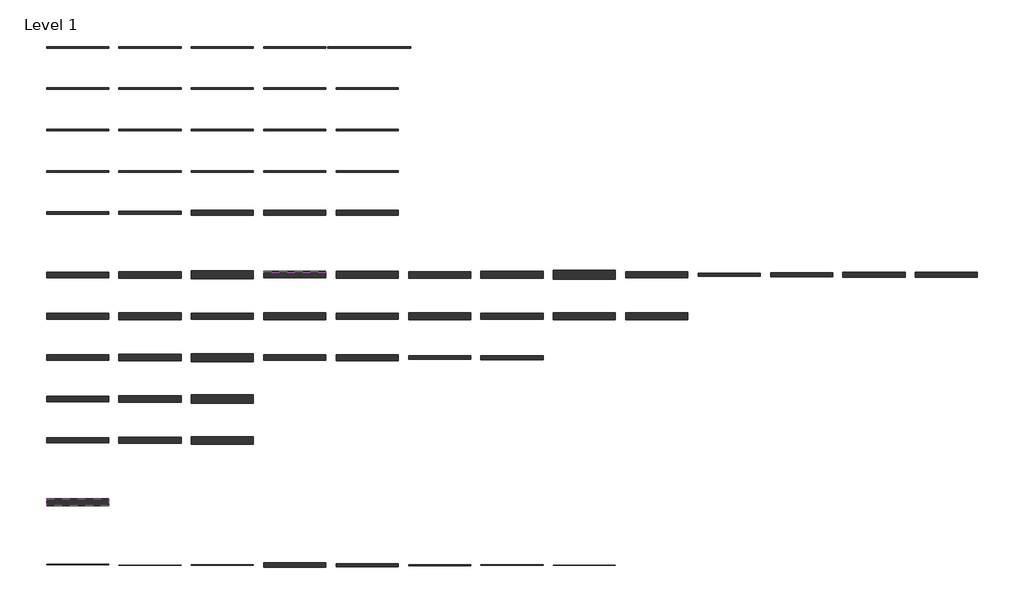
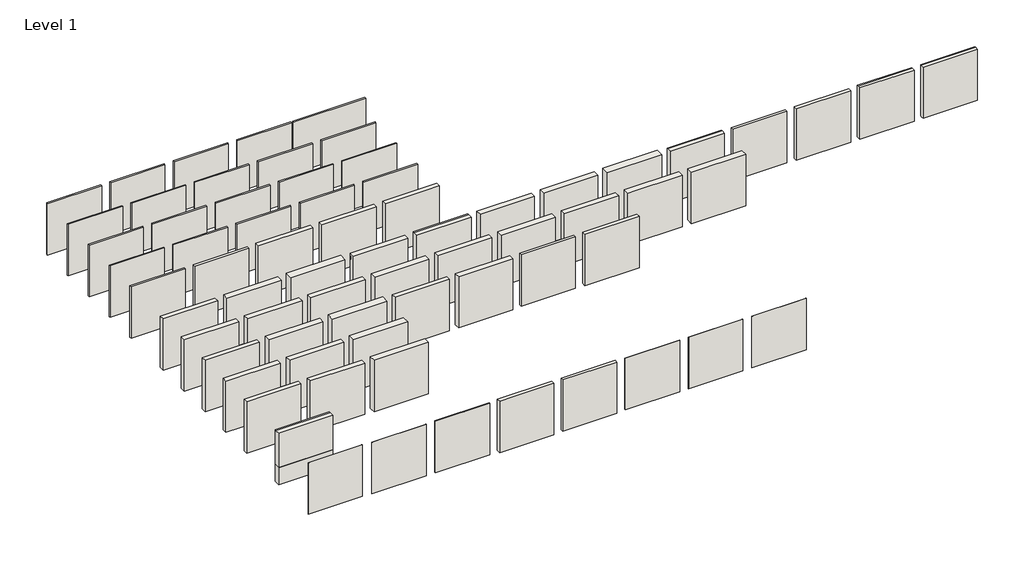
# One storey: 70 walls, 2 proxies.
"""IFC4 building model written with IfcOpenShell, lengths in millimetres."""

from ifc_helpers import new_model, si_unit, frame, origin, origin_with_axes, place, context, project, spatial, polyline, outline, extrude, faceted_brep, element, save

model = new_model("IFC4")

# Units and contexts
model_context = context("Model", 3, world=origin())
ifc_project = project(units=[si_unit("LENGTHUNIT", "METRE", prefix="MILLI")], contexts=[model_context])

# Site, building, storey
site = spatial("IfcSite", under=ifc_project)
building = spatial("IfcBuilding", under=site)
storey = spatial("IfcBuildingStorey", under=building, Name="Level 1", Elevation=0.0)

# Proxies
placement = place(None, origin())
element("IfcBuildingElementProxy", 1, Name="Wall Sweeps", at=placement, inside=storey, context=model_context, shape_type="Brep", body=[
    faceted_brep([(19074.129287, -5451.8691339, 1085.85), (19074.129287, -5451.8691339, 1016.0), (19074.129287, -5359.7941339, 1016.0), (19074.129287, -5324.8691339, 1016.0), (19074.129287, -5324.8691339, 1041.4), (19074.129287, -5359.7941339, 1085.85), (15416.529287, -5451.8691339, 1085.85), (15416.529287, -5359.7941339, 1085.85), (15416.529287, -5324.8691339, 1041.4), (15416.529287, -5324.8691339, 1016.0), (15416.529287, -5359.7941339, 1016.0), (15416.529287, -5451.8691339, 1016.0)], [[[0, 1, 2, 3, 4, 5]], [[6, 7, 8, 9, 10, 11]], [[1, 0, 6, 11]], [[3, 2, 1, 11, 10, 9]], [[4, 3, 9, 8]], [[5, 4, 8, 7]], [[0, 5, 7, 6]]]),
])
element("IfcBuildingElementProxy", 2, Name="Wall Sweeps", at=placement, inside=storey, context=model_context, shape_type="SweptSolid", body=[
    extrude(outline(polyline([(19074.129287, -5318.5191339), (19074.129287, -5410.5941339), (15416.529287, -5410.5941339), (15416.529287, -5318.5191339), (19074.129287, -5318.5191339)])), frame((0.0, 0.0, 3257.55), z_axis=(0.0, 0.0, 1.0), x_axis=(1.0, 0.0, 0.0)), (0.0, 0.0, 1.0), 190.5),
])

# Walls
element("IfcWall", 3, ObjectType="Brick-King-Flemish", at=placement, inside=storey, context=model_context, shape_type="SweptSolid", body=[
    extrude(outline(polyline([(6882.129287, 7919.6433661), (10539.729287, 7919.6433661), (10539.729287, 7827.5683661), (6882.129287, 7827.5683661), (6882.129287, 7919.6433661)])), origin_with_axes(), (0.0, 0.0, 1.0), 3657.6),
])
element("IfcWall", 4, ObjectType="Brick-Modular-Flemish", at=placement, inside=storey, context=model_context, shape_type="SweptSolid", body=[
    extrude(outline(polyline([(6882.129287, 5481.2433661), (10539.729287, 5481.2433661), (10539.729287, 5389.1683661), (6882.129287, 5389.1683661), (6882.129287, 5481.2433661)])), origin_with_axes(), (0.0, 0.0, 1.0), 3657.6),
])
element("IfcWall", 5, ObjectType="Brick-Norman-Third", at=placement, inside=storey, context=model_context, shape_type="SweptSolid", body=[
    extrude(outline(polyline([(19683.729287, 3042.8433661), (23341.329287, 3042.8433661), (23341.329287, 2950.7683661), (19683.729287, 2950.7683661), (19683.729287, 3042.8433661)])), origin_with_axes(), (0.0, 0.0, 1.0), 3657.6),
])
element("IfcWall", 6, ObjectType="Brick-Norman-Common", at=placement, inside=storey, context=model_context, shape_type="SweptSolid", body=[
    extrude(outline(polyline([(2614.929287, 3042.8433661), (6272.529287, 3042.8433661), (6272.529287, 2950.7683661), (2614.929287, 2950.7683661), (2614.929287, 3042.8433661)])), origin_with_axes(), (0.0, 0.0, 1.0), 3657.6),
])
element("IfcWall", 7, ObjectType="Brick-Norman-Flemish", at=placement, inside=storey, context=model_context, shape_type="SweptSolid", body=[
    extrude(outline(polyline([(6882.129287, 3042.8433661), (10539.729287, 3042.8433661), (10539.729287, 2950.7683661), (6882.129287, 2950.7683661), (6882.129287, 3042.8433661)])), origin_with_axes(), (0.0, 0.0, 1.0), 3657.6),
])
element("IfcWall", 8, ObjectType="Brick-Norman-Running", at=placement, inside=storey, context=model_context, shape_type="SweptSolid", body=[
    extrude(outline(polyline([(11149.329287, 3042.8433661), (14806.929287, 3042.8433661), (14806.929287, 2950.7683661), (11149.329287, 2950.7683661), (11149.329287, 3042.8433661)])), origin_with_axes(), (0.0, 0.0, 1.0), 3657.6),
])
element("IfcWall", 9, ObjectType="Brick-Norman-Stacked", at=placement, inside=storey, context=model_context, shape_type="SweptSolid", body=[
    extrude(outline(polyline([(15416.529287, 3042.8433661), (19074.129287, 3042.8433661), (19074.129287, 2950.7683661), (15416.529287, 2950.7683661), (15416.529287, 3042.8433661)])), origin_with_axes(), (0.0, 0.0, 1.0), 3657.6),
])
element("IfcWall", 10, ObjectType="Brick-Utility-Flemish", at=placement, inside=storey, context=model_context, shape_type="SweptSolid", body=[
    extrude(outline(polyline([(6882.129287, 604.4433661), (10539.729287, 604.4433661), (10539.729287, 512.3683661), (6882.129287, 512.3683661), (6882.129287, 604.4433661)])), origin_with_axes(), (0.0, 0.0, 1.0), 3657.6),
])
element("IfcWall", 11, ObjectType="Ext_Brick-Mod-Flemish_Mtl Std 8\"", at=placement, inside=storey, context=model_context, shape_type="SweptSolid", body=[
    extrude(outline(polyline([(-5334.3941339, 3657.6), (-5334.3941339, 0.0), (-5426.4691339, 0.0), (-5740.7941339, 0.0), (-5740.7941339, 3657.6), (-5426.4691339, 3657.6), (-5334.3941339, 3657.6)])), frame((19683.729287, 0.0, 0.0), z_axis=(1.0, 0.0, 0.0), x_axis=(0.0, 1.0, 0.0)), (0.0, 0.0, 1.0), 3657.6),
])
element("IfcWall", 12, ObjectType="Ext_Brick-Mod-Flemish_Mtl Std 8\"", at=placement, inside=storey, context=model_context, shape_type="SweptSolid", body=[
    extrude(outline(polyline([(-18745.5941339, 3657.6), (-18745.5941339, 1219.2), (-18837.6691339, 1219.2), (-19151.9941339, 1219.2), (-19151.9941339, 3657.6), (-18837.6691339, 3657.6), (-18745.5941339, 3657.6)])), frame((2614.929287, 0.0, 0.0), z_axis=(1.0, 0.0, 0.0), x_axis=(0.0, 1.0, 0.0)), (0.0, 0.0, 1.0), 3657.6),
])
element("IfcWall", 13, ObjectType="Acc_Wood Sheating_3/4\"", at=placement, inside=storey, context=model_context, shape_type="SweptSolid", body=[
    extrude(outline(polyline([(28218.129287, -22634.9691339), (31875.729287, -22634.9691339), (31875.729287, -22654.0191339), (28218.129287, -22654.0191339), (28218.129287, -22634.9691339)])), origin_with_axes(), (0.0, 0.0, 1.0), 3657.6),
])
element("IfcWall", 14, ObjectType="Ext_Brick-Mod-Flemish_Wd Std 6\"", at=placement, inside=storey, context=model_context, shape_type="SweptSolid", body=[
    extrude(outline(polyline([(-5391.5441339, 3657.6), (-5391.5441339, 0.0), (-5483.6191339, 0.0), (-5683.6441339, 0.0), (-5683.6441339, 3657.6), (-5483.6191339, 3657.6), (-5391.5441339, 3657.6)])), frame((49554.129287, 0.0, 0.0), z_axis=(1.0, 0.0, 0.0), x_axis=(0.0, 1.0, 0.0)), (0.0, 0.0, 1.0), 3657.6),
])
element("IfcWall", 15, ObjectType="Acc_Drainage Panel_1/4\"", at=placement, inside=storey, context=model_context, shape_type="SweptSolid", body=[
    extrude(outline(polyline([(2614.929287, -22603.2191339), (6272.529287, -22603.2191339), (6272.529287, -22609.5691339), (2614.929287, -22609.5691339), (2614.929287, -22603.2191339)])), origin_with_axes(), (0.0, 0.0, 1.0), 3657.6),
])
element("IfcWall", 16, ObjectType="Acc_Gyp Bd 5/8\"", at=placement, inside=storey, context=model_context, shape_type="SweptSolid", body=[
    extrude(outline(polyline([(6882.129287, -22636.5566339), (10539.729287, -22636.5566339), (10539.729287, -22652.4316339), (6882.129287, -22652.4316339), (6882.129287, -22636.5566339)])), origin_with_axes(), (0.0, 0.0, 1.0), 3657.6),
])
element("IfcWall", 17, ObjectType="Acc_Mtl Fur 1.5\"", at=placement, inside=storey, context=model_context, shape_type="SweptSolid", body=[
    extrude(outline(polyline([(11149.329287, -22623.8566339), (14806.929287, -22623.8566339), (14806.929287, -22665.1316339), (11149.329287, -22665.1316339), (11149.329287, -22623.8566339)])), origin_with_axes(), (0.0, 0.0, 1.0), 3657.6),
])
element("IfcWall", 18, ObjectType="Acc_Mtl Std_9\"", at=placement, inside=storey, context=model_context, shape_type="SweptSolid", body=[
    extrude(outline(polyline([(15416.529287, -22514.3191339), (19074.129287, -22514.3191339), (19074.129287, -22774.6691339), (15416.529287, -22774.6691339), (15416.529287, -22514.3191339)])), origin_with_axes(), (0.0, 0.0, 1.0), 3657.6),
])
element("IfcWall", 19, ObjectType="Acc_Mtl Stud_6\"", at=placement, inside=storey, context=model_context, shape_type="SweptSolid", body=[
    extrude(outline(polyline([(-22552.4191339, 3657.6), (-22552.4191339, 0.0), (-22571.4691339, 0.0), (-22736.5691339, 0.0), (-22736.5691339, 3657.6), (-22552.4191339, 3657.6)])), frame((19683.729287, 0.0, 0.0), z_axis=(1.0, 0.0, 0.0), x_axis=(0.0, 1.0, 0.0)), (0.0, 0.0, 1.0), 3657.6),
])
element("IfcWall", 20, ObjectType="Acc_Rigid Insulation_2\"", at=placement, inside=storey, context=model_context, shape_type="SweptSolid", body=[
    extrude(outline(polyline([(23950.929287, -22619.0941339), (27608.529287, -22619.0941339), (27608.529287, -22669.8941339), (23950.929287, -22669.8941339), (23950.929287, -22619.0941339)])), origin_with_axes(), (0.0, 0.0, 1.0), 3657.6),
])
element("IfcWall", 21, ObjectType="Air Barrier", at=placement, inside=storey, context=model_context, shape_type="SweptSolid", body=[
    extrude(outline(polyline([(32485.329287, -22644.0972589), (36142.929287, -22644.0972589), (36142.929287, -22644.8910089), (32485.329287, -22644.8910089), (32485.329287, -22644.0972589)])), origin_with_axes(), (0.0, 0.0, 1.0), 3657.6),
])
element("IfcWall", 22, ObjectType="Brick-King-Common", at=placement, inside=storey, context=model_context, shape_type="SweptSolid", body=[
    extrude(outline(polyline([(2614.929287, 7919.6433661), (6272.529287, 7919.6433661), (6272.529287, 7827.5683661), (2614.929287, 7827.5683661), (2614.929287, 7919.6433661)])), origin_with_axes(), (0.0, 0.0, 1.0), 3657.6),
])
element("IfcWall", 23, ObjectType="Brick-King-Running", at=placement, inside=storey, context=model_context, shape_type="SweptSolid", body=[
    extrude(outline(polyline([(11149.329287, 7919.6433661), (14806.929287, 7919.6433661), (14806.929287, 7827.5683661), (11149.329287, 7827.5683661), (11149.329287, 7919.6433661)])), origin_with_axes(), (0.0, 0.0, 1.0), 3657.6),
])
element("IfcWall", 24, ObjectType="Brick-King-Stacked", at=placement, inside=storey, context=model_context, shape_type="SweptSolid", body=[
    extrude(outline(polyline([(15416.529287, 7919.6433661), (19074.129287, 7919.6433661), (19074.129287, 7827.5683661), (15416.529287, 7827.5683661), (15416.529287, 7919.6433661)])), origin_with_axes(), (0.0, 0.0, 1.0), 3657.6),
])
element("IfcWall", 25, ObjectType="Brick-King-Third", at=placement, inside=storey, context=model_context, shape_type="SweptSolid", body=[
    extrude(outline(polyline([(19188.429287, 7919.6433661), (24065.229287, 7919.6433661), (24065.229287, 7827.5683661), (19188.429287, 7827.5683661), (19188.429287, 7919.6433661)])), origin_with_axes(), (0.0, 0.0, 1.0), 3657.6),
])
element("IfcWall", 26, ObjectType="Brick-Modular-Common", at=placement, inside=storey, context=model_context, shape_type="SweptSolid", body=[
    extrude(outline(polyline([(2614.929287, 5481.2433661), (6272.529287, 5481.2433661), (6272.529287, 5389.1683661), (2614.929287, 5389.1683661), (2614.929287, 5481.2433661)])), origin_with_axes(), (0.0, 0.0, 1.0), 3657.6),
])
element("IfcWall", 27, ObjectType="Brick-Modular-Running", at=placement, inside=storey, context=model_context, shape_type="SweptSolid", body=[
    extrude(outline(polyline([(11149.329287, 5481.2433661), (14806.929287, 5481.2433661), (14806.929287, 5389.1683661), (11149.329287, 5389.1683661), (11149.329287, 5481.2433661)])), origin_with_axes(), (0.0, 0.0, 1.0), 3657.6),
])
element("IfcWall", 28, ObjectType="Brick-Modular-Stacked", at=placement, inside=storey, context=model_context, shape_type="SweptSolid", body=[
    extrude(outline(polyline([(15416.529287, 5481.2433661), (19074.129287, 5481.2433661), (19074.129287, 5389.1683661), (15416.529287, 5389.1683661), (15416.529287, 5481.2433661)])), origin_with_axes(), (0.0, 0.0, 1.0), 3657.6),
])
element("IfcWall", 29, ObjectType="Brick-Modular-Third", at=placement, inside=storey, context=model_context, shape_type="SweptSolid", body=[
    extrude(outline(polyline([(19683.729287, 5481.2433661), (23341.329287, 5481.2433661), (23341.329287, 5389.1683661), (19683.729287, 5389.1683661), (19683.729287, 5481.2433661)])), origin_with_axes(), (0.0, 0.0, 1.0), 3657.6),
])
element("IfcWall", 30, ObjectType="Brick-Utility-Common", at=placement, inside=storey, context=model_context, shape_type="SweptSolid", body=[
    extrude(outline(polyline([(2614.929287, 604.4433661), (6272.529287, 604.4433661), (6272.529287, 512.3683661), (2614.929287, 512.3683661), (2614.929287, 604.4433661)])), origin_with_axes(), (0.0, 0.0, 1.0), 3657.6),
])
element("IfcWall", 31, ObjectType="Brick-Utility-Running", at=placement, inside=storey, context=model_context, shape_type="SweptSolid", body=[
    extrude(outline(polyline([(11149.329287, 604.4433661), (14806.929287, 604.4433661), (14806.929287, 512.3683661), (11149.329287, 512.3683661), (11149.329287, 604.4433661)])), origin_with_axes(), (0.0, 0.0, 1.0), 3657.6),
])
element("IfcWall", 32, ObjectType="Brick-Utility-Stacked", at=placement, inside=storey, context=model_context, shape_type="SweptSolid", body=[
    extrude(outline(polyline([(15416.529287, 604.4433661), (19074.129287, 604.4433661), (19074.129287, 512.3683661), (15416.529287, 512.3683661), (15416.529287, 604.4433661)])), origin_with_axes(), (0.0, 0.0, 1.0), 3657.6),
])
element("IfcWall", 33, ObjectType="Brick-Utility-Third", at=placement, inside=storey, context=model_context, shape_type="SweptSolid", body=[
    extrude(outline(polyline([(19683.729287, 604.4433661), (23341.329287, 604.4433661), (23341.329287, 512.3683661), (19683.729287, 512.3683661), (19683.729287, 604.4433661)])), origin_with_axes(), (0.0, 0.0, 1.0), 3657.6),
])
element("IfcWall", 34, ObjectType="CMU-12x8x16", at=placement, inside=storey, context=model_context, shape_type="SweptSolid", body=[
    extrude(outline(polyline([(11149.329287, -1732.3566339), (14806.929287, -1732.3566339), (14806.929287, -2027.6316339), (11149.329287, -2027.6316339), (11149.329287, -1732.3566339)])), origin_with_axes(), (0.0, 0.0, 1.0), 3657.6),
])
element("IfcWall", 35, ObjectType="CMU-12x8x16_Ribbed-4", at=placement, inside=storey, context=model_context, shape_type="SweptSolid", body=[
    extrude(outline(polyline([(15416.529287, -1732.3566339), (19074.129287, -1732.3566339), (19074.129287, -2027.6316339), (15416.529287, -2027.6316339), (15416.529287, -1732.3566339)])), origin_with_axes(), (0.0, 0.0, 1.0), 3657.6),
])
element("IfcWall", 36, ObjectType="CMU-12x8x16_Ribbed-8", at=placement, inside=storey, context=model_context, shape_type="SweptSolid", body=[
    extrude(outline(polyline([(19683.729287, -1732.3566339), (23341.329287, -1732.3566339), (23341.329287, -2027.6316339), (19683.729287, -2027.6316339), (19683.729287, -1732.3566339)])), origin_with_axes(), (0.0, 0.0, 1.0), 3657.6),
])
element("IfcWall", 37, ObjectType="CMU-6x8x16", at=placement, inside=storey, context=model_context, shape_type="SweptSolid", body=[
    extrude(outline(polyline([(2614.929287, -1808.5566339), (6272.529287, -1808.5566339), (6272.529287, -1951.4316339), (2614.929287, -1951.4316339), (2614.929287, -1808.5566339)])), origin_with_axes(), (0.0, 0.0, 1.0), 3657.6),
])
element("IfcWall", 38, ObjectType="CMU-8x8x16", at=placement, inside=storey, context=model_context, shape_type="SweptSolid", body=[
    extrude(outline(polyline([(6882.129287, -1783.1566339), (10539.729287, -1783.1566339), (10539.729287, -1976.8316339), (6882.129287, -1976.8316339), (6882.129287, -1783.1566339)])), origin_with_axes(), (0.0, 0.0, 1.0), 3657.6),
])
element("IfcWall", 39, ObjectType="Ext_Brick Thin-Mod-Running_CMU 12x8x16_Mtl Fur 1.5\"", at=placement, inside=storey, context=model_context, shape_type="SweptSolid", body=[
    extrude(outline(polyline([(11149.329287, -5296.2941339), (14806.929287, -5296.2941339), (14806.929287, -5778.8941339), (11149.329287, -5778.8941339), (11149.329287, -5296.2941339)])), origin_with_axes(), (0.0, 0.0, 1.0), 3657.6),
])
element("IfcWall", 40, ObjectType="Ext_Brick Thin-Mod-Running_CMU 6x8x16_Mtl Fur 1.5\"", at=placement, inside=storey, context=model_context, shape_type="SweptSolid", body=[
    extrude(outline(polyline([(2614.929287, -5372.4941339), (6272.529287, -5372.4941339), (6272.529287, -5702.6941339), (2614.929287, -5702.6941339), (2614.929287, -5372.4941339)])), origin_with_axes(), (0.0, 0.0, 1.0), 3657.6),
])
element("IfcWall", 41, ObjectType="Ext_Brick Thin-Mod-Running_CMU 8x8x16_Mtl Fur 1.5\"", at=placement, inside=storey, context=model_context, shape_type="SweptSolid", body=[
    extrude(outline(polyline([(6882.129287, -5347.0941339), (10539.729287, -5347.0941339), (10539.729287, -5728.0941339), (6882.129287, -5728.0941339), (6882.129287, -5347.0941339)])), origin_with_axes(), (0.0, 0.0, 1.0), 3657.6),
])
element("IfcWall", 42, ObjectType="Ext_Brick Thin-Mod-Running_Wd Std 4\"", at=placement, inside=storey, context=model_context, shape_type="SweptSolid", body=[
    extrude(outline(polyline([(41019.729287, -5445.5191339), (44677.329287, -5445.5191339), (44677.329287, -5629.6691339), (41019.729287, -5629.6691339), (41019.729287, -5445.5191339)])), origin_with_axes(), (0.0, 0.0, 1.0), 3657.6),
])
element("IfcWall", 43, ObjectType="Ext_Brick Thin-Mod-Running_Wd Std 6\"", at=placement, inside=storey, context=model_context, shape_type="SweptSolid", body=[
    extrude(outline(polyline([(45286.929287, -5420.1191339), (48944.529287, -5420.1191339), (48944.529287, -5655.0691339), (45286.929287, -5655.0691339), (45286.929287, -5420.1191339)])), origin_with_axes(), (0.0, 0.0, 1.0), 3657.6),
])
element("IfcWall", 44, ObjectType="Ext_Brick-Mod-Common_CMU-4x8x16-Burnished_Mtl Std 6\"", at=placement, inside=storey, context=model_context, shape_type="SweptSolid", body=[
    extrude(outline(polyline([(-5715.3941339, 0.0), (-5715.3941339, 3657.6), (-5359.7941339, 3657.6), (-5359.7941339, 1085.85), (-5451.8691339, 1085.85), (-5451.8691339, 1016.0), (-5359.7941339, 1016.0), (-5359.7941339, 0.0), (-5451.8691339, 0.0), (-5715.3941339, 0.0)])), frame((15416.529287, 0.0, 0.0), z_axis=(1.0, 0.0, 0.0), x_axis=(0.0, 1.0, 0.0)), (0.0, 0.0, 1.0), 3657.6),
])
element("IfcWall", 45, ObjectType="Ext_Brick-Mod-Running_CMU 12x8x16_Mtl Fur 1.5\"", at=placement, inside=storey, context=model_context, shape_type="SweptSolid", body=[
    extrude(outline(polyline([(32485.329287, -5277.2441339), (36142.929287, -5277.2441339), (36142.929287, -5797.9441339), (32485.329287, -5797.9441339), (32485.329287, -5277.2441339)])), origin_with_axes(), (0.0, 0.0, 1.0), 3657.6),
])
element("IfcWall", 46, ObjectType="Ext_Brick-Mod-Running_CMU 6x8x16_Mtl Fur 1.5\"", at=placement, inside=storey, context=model_context, shape_type="SweptSolid", body=[
    extrude(outline(polyline([(23950.929287, -5353.4441339), (27608.529287, -5353.4441339), (27608.529287, -5721.7441339), (23950.929287, -5721.7441339), (23950.929287, -5353.4441339)])), origin_with_axes(), (0.0, 0.0, 1.0), 3657.6),
])
element("IfcWall", 47, ObjectType="Ext_Brick-Mod-Running_CMU 8x8x16_Mtl Fur 1.5\"", at=placement, inside=storey, context=model_context, shape_type="SweptSolid", body=[
    extrude(outline(polyline([(28218.129287, -5328.0441339), (31875.729287, -5328.0441339), (31875.729287, -5747.1441339), (28218.129287, -5747.1441339), (28218.129287, -5328.0441339)])), origin_with_axes(), (0.0, 0.0, 1.0), 3657.6),
])
element("IfcWall", 48, ObjectType="Ext_Brick-Mod-Running_Mtl Std 6\"", at=placement, inside=storey, context=model_context, shape_type="SweptSolid", body=[
    extrude(outline(polyline([(-5359.7941339, 3657.6), (-5359.7941339, 0.0), (-5451.8691339, 0.0), (-5715.3941339, 0.0), (-5715.3941339, 3657.6), (-5451.8691339, 3657.6), (-5359.7941339, 3657.6)])), frame((36752.529287, 0.0, 0.0), z_axis=(1.0, 0.0, 0.0), x_axis=(0.0, 1.0, 0.0)), (0.0, 0.0, 1.0), 3657.6),
])
element("IfcWall", 49, ObjectType="Ext_Brick-Mod-Running_Wd Std 6\"", at=placement, inside=storey, context=model_context, shape_type="SweptSolid", body=[
    extrude(outline(polyline([(-5391.5441339, 3657.6), (-5391.5441339, 0.0), (-5483.6191339, 0.0), (-5683.6441339, 0.0), (-5683.6441339, 3657.6), (-5483.6191339, 3657.6), (-5391.5441339, 3657.6)])), frame((53821.329287, 0.0, 0.0), z_axis=(1.0, 0.0, 0.0), x_axis=(0.0, 1.0, 0.0)), (0.0, 0.0, 1.0), 3657.6),
])
element("IfcWall", 50, ObjectType="Ext_CMU 4x8x16-Burnished-Running_Mtl Stud 6\"", at=placement, inside=storey, context=model_context, shape_type="SweptSolid", body=[
    extrude(outline(polyline([(2614.929287, -7798.1941339), (6272.529287, -7798.1941339), (6272.529287, -8153.7941339), (2614.929287, -8153.7941339), (2614.929287, -7798.1941339)])), origin_with_axes(), (0.0, 0.0, 1.0), 3657.6),
])
element("IfcWall", 51, ObjectType="Ext_CMU 4x8x16-Burnished-Running_Mtl Stud 8\"", at=placement, inside=storey, context=model_context, shape_type="SweptSolid", body=[
    extrude(outline(polyline([(6882.129287, -7772.7941339), (10539.729287, -7772.7941339), (10539.729287, -8179.1941339), (6882.129287, -8179.1941339), (6882.129287, -7772.7941339)])), origin_with_axes(), (0.0, 0.0, 1.0), 3657.6),
])
element("IfcWall", 52, ObjectType="Ext_CMU 4x8x16-Burnished-Running_Mtl Stud 8\"", at=placement, inside=storey, context=model_context, shape_type="SweptSolid", body=[
    extrude(outline(polyline([(2614.929287, -18745.5941339), (6272.529287, -18745.5941339), (6272.529287, -19151.9941339), (2614.929287, -19151.9941339), (2614.929287, -18745.5941339)])), origin_with_axes(), (0.0, 0.0, 1.0), 1219.2),
])
element("IfcWall", 53, ObjectType="Ext_CMU-4x8x16-Rib 4-Running_Mtl Std 6\"", at=placement, inside=storey, context=model_context, shape_type="SweptSolid", body=[
    extrude(outline(polyline([(11149.329287, -7798.1941339), (14806.929287, -7798.1941339), (14806.929287, -8153.7941339), (11149.329287, -8153.7941339), (11149.329287, -7798.1941339)])), origin_with_axes(), (0.0, 0.0, 1.0), 3657.6),
])
element("IfcWall", 54, ObjectType="Ext_CMU-4x8x16-Rib 4-Running_Mtl Std 8\"", at=placement, inside=storey, context=model_context, shape_type="SweptSolid", body=[
    extrude(outline(polyline([(15416.529287, -7772.7941339), (19074.129287, -7772.7941339), (19074.129287, -8179.1941339), (15416.529287, -8179.1941339), (15416.529287, -7772.7941339)])), origin_with_axes(), (0.0, 0.0, 1.0), 3657.6),
])
element("IfcWall", 55, ObjectType="Ext_CMU-4x8x16-Rib 8-Running_Mtl Std 6\"", at=placement, inside=storey, context=model_context, shape_type="SweptSolid", body=[
    extrude(outline(polyline([(19683.729287, -7798.1941339), (23341.329287, -7798.1941339), (23341.329287, -8153.7941339), (19683.729287, -8153.7941339), (19683.729287, -7798.1941339)])), origin_with_axes(), (0.0, 0.0, 1.0), 3657.6),
])
element("IfcWall", 56, ObjectType="Ext_CMU-4x8x16-Rib 8-Running_Mtl Std 8\"", at=placement, inside=storey, context=model_context, shape_type="SweptSolid", body=[
    extrude(outline(polyline([(23950.929287, -7772.7941339), (27608.529287, -7772.7941339), (27608.529287, -8179.1941339), (23950.929287, -8179.1941339), (23950.929287, -7772.7941339)])), origin_with_axes(), (0.0, 0.0, 1.0), 3657.6),
])
element("IfcWall", 57, ObjectType="Ext_CMU-4x8x16-Running_CMU-12x8x16_Mtl Fur 1.5\"", at=placement, inside=storey, context=model_context, shape_type="SweptSolid", body=[
    extrude(outline(polyline([(36752.529287, -7766.4441339), (40410.129287, -7766.4441339), (40410.129287, -8185.5441339), (36752.529287, -8185.5441339), (36752.529287, -7766.4441339)])), origin_with_axes(), (0.0, 0.0, 1.0), 3657.6),
])
element("IfcWall", 58, ObjectType="Ext_CMU-4x8x16-Running_CMU-6x8x16_Mtl Fur 1.5\"", at=placement, inside=storey, context=model_context, shape_type="SweptSolid", body=[
    extrude(outline(polyline([(28218.129287, -7791.8441339), (31875.729287, -7791.8441339), (31875.729287, -8160.1441339), (28218.129287, -8160.1441339), (28218.129287, -7791.8441339)])), origin_with_axes(), (0.0, 0.0, 1.0), 3657.6),
])
element("IfcWall", 59, ObjectType="Ext_CMU-4x8x16-Running_CMU-8x8x16_Mtl Fur 1.5\"", at=placement, inside=storey, context=model_context, shape_type="SweptSolid", body=[
    extrude(outline(polyline([(32485.329287, -7766.4441339), (36142.929287, -7766.4441339), (36142.929287, -8185.5441339), (32485.329287, -8185.5441339), (32485.329287, -7766.4441339)])), origin_with_axes(), (0.0, 0.0, 1.0), 3657.6),
])
element("IfcWall", 60, ObjectType="Ext_Stone 2\"_CMU-12x8x16_Mtl Fur 1.5\"", at=placement, inside=storey, context=model_context, shape_type="SweptSolid", body=[
    extrude(outline(polyline([(11149.329287, -10173.0941339), (14806.929287, -10173.0941339), (14806.929287, -10655.6941339), (11149.329287, -10655.6941339), (11149.329287, -10173.0941339)])), origin_with_axes(), (0.0, 0.0, 1.0), 3657.6),
])
element("IfcWall", 61, ObjectType="Ext_Stone 2\"_CMU-6x8x16_Mtl Fur 1.5\"", at=placement, inside=storey, context=model_context, shape_type="SweptSolid", body=[
    extrude(outline(polyline([(2614.929287, -10249.2941339), (6272.529287, -10249.2941339), (6272.529287, -10579.4941339), (2614.929287, -10579.4941339), (2614.929287, -10249.2941339)])), origin_with_axes(), (0.0, 0.0, 1.0), 3657.6),
])
element("IfcWall", 62, ObjectType="Ext_Stone 2\"_CMU-8x8x16_Mtl Fur 1.5\"", at=placement, inside=storey, context=model_context, shape_type="SweptSolid", body=[
    extrude(outline(polyline([(6882.129287, -10223.8941339), (10539.729287, -10223.8941339), (10539.729287, -10604.8941339), (6882.129287, -10604.8941339), (6882.129287, -10223.8941339)])), origin_with_axes(), (0.0, 0.0, 1.0), 3657.6),
])
element("IfcWall", 63, ObjectType="Ext_Stone 2\"_Mtl Std 6\"", at=placement, inside=storey, context=model_context, shape_type="SweptSolid", body=[
    extrude(outline(polyline([(15416.529287, -10258.8191339), (19074.129287, -10258.8191339), (19074.129287, -10569.9691339), (15416.529287, -10569.9691339), (15416.529287, -10258.8191339)])), origin_with_axes(), (0.0, 0.0, 1.0), 3657.6),
])
element("IfcWall", 64, ObjectType="Ext_Stone 2\"_Mtl Std 8\"", at=placement, inside=storey, context=model_context, shape_type="SweptSolid", body=[
    extrude(outline(polyline([(19683.729287, -10233.4191339), (23341.329287, -10233.4191339), (23341.329287, -10595.3691339), (19683.729287, -10595.3691339), (19683.729287, -10233.4191339)])), origin_with_axes(), (0.0, 0.0, 1.0), 3657.6),
])
element("IfcWall", 65, ObjectType="Ext_Stone 2\"_Wd Std 4\"", at=placement, inside=storey, context=model_context, shape_type="SweptSolid", body=[
    extrude(outline(polyline([(23950.929287, -10315.9691339), (27608.529287, -10315.9691339), (27608.529287, -10512.8191339), (23950.929287, -10512.8191339), (23950.929287, -10315.9691339)])), origin_with_axes(), (0.0, 0.0, 1.0), 3657.6),
])
element("IfcWall", 66, ObjectType="Ext_Stone 2\"_Wd Std 6\"", at=placement, inside=storey, context=model_context, shape_type="SweptSolid", body=[
    extrude(outline(polyline([(28218.129287, -10290.5691339), (31875.729287, -10290.5691339), (31875.729287, -10538.2191339), (28218.129287, -10538.2191339), (28218.129287, -10290.5691339)])), origin_with_axes(), (0.0, 0.0, 1.0), 3657.6),
])
element("IfcWall", 67, ObjectType="Ext_Terra Cotta 24\"_CMU 12x8x16_Mtl Fur 1.5\"", at=placement, inside=storey, context=model_context, shape_type="SweptSolid", body=[
    extrude(outline(polyline([(11149.329287, -12611.4941339), (14806.929287, -12611.4941339), (14806.929287, -13094.0941339), (11149.329287, -13094.0941339), (11149.329287, -12611.4941339)])), origin_with_axes(), (0.0, 0.0, 1.0), 3657.6),
])
element("IfcWall", 68, ObjectType="Ext_Terra Cotta 24\"_CMU 6x8x16_Mtl Fur 1.5\"", at=placement, inside=storey, context=model_context, shape_type="SweptSolid", body=[
    extrude(outline(polyline([(2614.929287, -12687.6941339), (6272.529287, -12687.6941339), (6272.529287, -13017.8941339), (2614.929287, -13017.8941339), (2614.929287, -12687.6941339)])), origin_with_axes(), (0.0, 0.0, 1.0), 3657.6),
])
element("IfcWall", 69, ObjectType="Ext_Terra Cotta 24\"_CMU 8x8x16_Mtl Fur 1.5\"", at=placement, inside=storey, context=model_context, shape_type="SweptSolid", body=[
    extrude(outline(polyline([(6882.129287, -12662.2941339), (10539.729287, -12662.2941339), (10539.729287, -13043.2941339), (6882.129287, -13043.2941339), (6882.129287, -12662.2941339)])), origin_with_axes(), (0.0, 0.0, 1.0), 3657.6),
])
element("IfcWall", 70, ObjectType="Ext_Tile 8\"_CMU 12x8x16_Mtl Fur 1.5\"", at=placement, inside=storey, context=model_context, shape_type="SweptSolid", body=[
    extrude(outline(polyline([(11149.329287, -15068.9441339), (14806.929287, -15068.9441339), (14806.929287, -15513.4441339), (11149.329287, -15513.4441339), (11149.329287, -15068.9441339)])), origin_with_axes(), (0.0, 0.0, 1.0), 3657.6),
])
element("IfcWall", 71, ObjectType="Ext_Tile 8\"_CMU 6x8x16_Mtl Fur 1.5\"", at=placement, inside=storey, context=model_context, shape_type="SweptSolid", body=[
    extrude(outline(polyline([(2614.929287, -15145.1441339), (6272.529287, -15145.1441339), (6272.529287, -15437.2441339), (2614.929287, -15437.2441339), (2614.929287, -15145.1441339)])), origin_with_axes(), (0.0, 0.0, 1.0), 3657.6),
])
element("IfcWall", 72, ObjectType="Ext_Tile 8\"_CMU 8x8x16_Mtl Fur 1.5\"", at=placement, inside=storey, context=model_context, shape_type="SweptSolid", body=[
    extrude(outline(polyline([(6882.129287, -15119.7441339), (10539.729287, -15119.7441339), (10539.729287, -15462.6441339), (6882.129287, -15462.6441339), (6882.129287, -15119.7441339)])), origin_with_axes(), (0.0, 0.0, 1.0), 3657.6),
])

save(model, "model.ifc")
